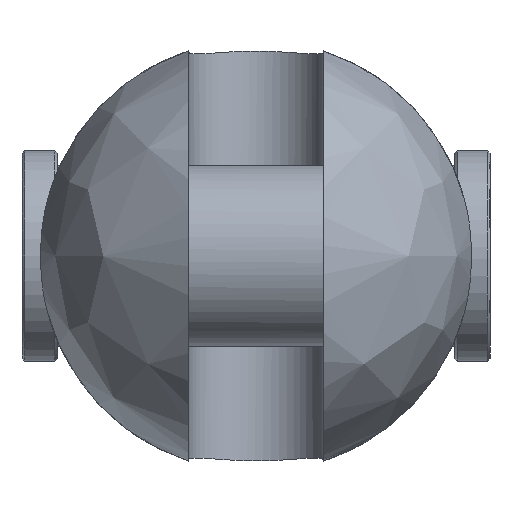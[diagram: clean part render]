
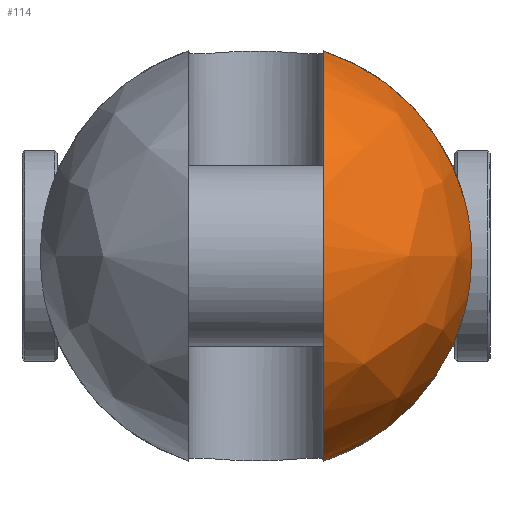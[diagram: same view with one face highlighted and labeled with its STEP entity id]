
A CAD part, left-side view. The second image highlights one B-rep face of the part: STEP entity #114.
In plain terms, the highlighted free-form (B-spline) face has degree [2, 2] with [9, 5] control points.
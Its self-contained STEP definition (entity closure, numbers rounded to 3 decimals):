
#114=ADVANCED_FACE('',(#202),#1535,.T.);
#202=FACE_OUTER_BOUND('',#302,.T.);
#302=EDGE_LOOP('',(#746,#747,#748,#749));
#746=ORIENTED_EDGE('',*,*,#1004,.T.);
#747=ORIENTED_EDGE('',*,*,#1001,.F.);
#748=ORIENTED_EDGE('',*,*,#1021,.T.);
#749=ORIENTED_EDGE('',*,*,#993,.F.);
#993=EDGE_CURVE('',#1425,#1426,#1256,.T.);
#1001=EDGE_CURVE('',#1433,#1434,#1257,.T.);
#1004=EDGE_CURVE('',#1425,#1434,#1259,.T.);
#1021=EDGE_CURVE('',#1433,#1426,#1130,.T.);
#1130=B_SPLINE_CURVE_WITH_KNOTS('',3,(#3620,#3621,#3622,#3623,#3624,#3625,
#3626,#3627,#3628,#3629,#3630,#3631,#3632,#3633),.UNSPECIFIED.,.F.,.F.,
(4,2,2,2,2,2,4),(0.,1.604,6.679,11.753,
16.828,21.902,23.506),.UNSPECIFIED.);
#1256=(
BOUNDED_CURVE()
B_SPLINE_CURVE(2,(#3470,#3471,#3472),.UNSPECIFIED.,.F.,.F.)
B_SPLINE_CURVE_WITH_KNOTS((3,3),(0.,42.595),.UNSPECIFIED.)
CURVE()
GEOMETRIC_REPRESENTATION_ITEM()
RATIONAL_B_SPLINE_CURVE((1.,0.88,1.))
REPRESENTATION_ITEM('')
);
#1257=(
BOUNDED_CURVE()
B_SPLINE_CURVE(2,(#3527,#3528,#3529),.UNSPECIFIED.,.F.,.F.)
B_SPLINE_CURVE_WITH_KNOTS((3,3),(0.,42.595),.UNSPECIFIED.)
CURVE()
GEOMETRIC_REPRESENTATION_ITEM()
RATIONAL_B_SPLINE_CURVE((1.,0.88,1.))
REPRESENTATION_ITEM('')
);
#1259=(
BOUNDED_CURVE()
B_SPLINE_CURVE(2,(#3535,#3536,#3537,#3538,#3539),.UNSPECIFIED.,.F.,.F.)
B_SPLINE_CURVE_WITH_KNOTS((3,2,3),(-128.258,-64.129,
0.),.UNSPECIFIED.)
CURVE()
GEOMETRIC_REPRESENTATION_ITEM()
RATIONAL_B_SPLINE_CURVE((1.,0.707,1.,0.707,1.))
REPRESENTATION_ITEM('')
);
#1425=VERTEX_POINT('',#3302);
#1426=VERTEX_POINT('',#3303);
#1433=VERTEX_POINT('',#3310);
#1434=VERTEX_POINT('',#3311);
#1535=(
BOUNDED_SURFACE()
B_SPLINE_SURFACE(2,2,((#3174,#3175,#3176,#3177,#3178),(#3179,#3180,#3181,
#3182,#3183),(#3184,#3185,#3186,#3187,#3188),(#3189,#3190,#3191,#3192,#3193),
(#3194,#3195,#3196,#3197,#3198),(#3199,#3200,#3201,#3202,#3203),(#3204,
#3205,#3206,#3207,#3208),(#3209,#3210,#3211,#3212,#3213),(#3214,#3215,#3216,
#3217,#3218)),.UNSPECIFIED.,.T.,.F.,.F.)
B_SPLINE_SURFACE_WITH_KNOTS((3,2,2,2,3),(3,2,3),(0.,67.544,135.088,
202.633,270.177),(0.,67.544,135.088),
 .UNSPECIFIED.)
GEOMETRIC_REPRESENTATION_ITEM()
RATIONAL_B_SPLINE_SURFACE(((1.,0.707,1.,0.707,1.),
(0.707,0.5,0.707,0.5,0.707),(1.,0.707,
1.,0.707,1.),(0.707,0.5,0.707,0.5,0.707),
(1.,0.707,1.,0.707,1.),(0.707,0.5,0.707,
0.5,0.707),(1.,0.707,1.,0.707,1.),(0.707,
0.5,0.707,0.5,0.707),(1.,0.707,1.,0.707,
1.)))
REPRESENTATION_ITEM('')
SURFACE()
);
#3174=CARTESIAN_POINT('',(-62.,0.,0.));
#3175=CARTESIAN_POINT('',(-62.,43.,0.));
#3176=CARTESIAN_POINT('',(-19.,43.,0.));
#3177=CARTESIAN_POINT('',(24.,43.,0.));
#3178=CARTESIAN_POINT('',(24.,0.,0.));
#3179=CARTESIAN_POINT('',(-62.,0.,0.));
#3180=CARTESIAN_POINT('',(-62.,43.,43.));
#3181=CARTESIAN_POINT('',(-19.,43.,43.));
#3182=CARTESIAN_POINT('',(24.,43.,43.));
#3183=CARTESIAN_POINT('',(24.,0.,0.));
#3184=CARTESIAN_POINT('',(-62.,0.,0.));
#3185=CARTESIAN_POINT('',(-62.,0.,43.));
#3186=CARTESIAN_POINT('',(-19.,0.,43.));
#3187=CARTESIAN_POINT('',(24.,0.,43.));
#3188=CARTESIAN_POINT('',(24.,0.,0.));
#3189=CARTESIAN_POINT('',(-62.,0.,0.));
#3190=CARTESIAN_POINT('',(-62.,-43.,43.));
#3191=CARTESIAN_POINT('',(-19.,-43.,43.));
#3192=CARTESIAN_POINT('',(24.,-43.,43.));
#3193=CARTESIAN_POINT('',(24.,0.,0.));
#3194=CARTESIAN_POINT('',(-62.,0.,0.));
#3195=CARTESIAN_POINT('',(-62.,-43.,0.));
#3196=CARTESIAN_POINT('',(-19.,-43.,0.));
#3197=CARTESIAN_POINT('',(24.,-43.,0.));
#3198=CARTESIAN_POINT('',(24.,0.,0.));
#3199=CARTESIAN_POINT('',(-62.,0.,0.));
#3200=CARTESIAN_POINT('',(-62.,-43.,-43.));
#3201=CARTESIAN_POINT('',(-19.,-43.,-43.));
#3202=CARTESIAN_POINT('',(24.,-43.,-43.));
#3203=CARTESIAN_POINT('',(24.,0.,0.));
#3204=CARTESIAN_POINT('',(-62.,0.,0.));
#3205=CARTESIAN_POINT('',(-62.,0.,-43.));
#3206=CARTESIAN_POINT('',(-19.,0.,-43.));
#3207=CARTESIAN_POINT('',(24.,0.,-43.));
#3208=CARTESIAN_POINT('',(24.,0.,0.));
#3209=CARTESIAN_POINT('',(-62.,0.,0.));
#3210=CARTESIAN_POINT('',(-62.,43.,-43.));
#3211=CARTESIAN_POINT('',(-19.,43.,-43.));
#3212=CARTESIAN_POINT('',(24.,43.,-43.));
#3213=CARTESIAN_POINT('',(24.,0.,0.));
#3214=CARTESIAN_POINT('',(-62.,0.,0.));
#3215=CARTESIAN_POINT('',(-62.,43.,0.));
#3216=CARTESIAN_POINT('',(-19.,43.,0.));
#3217=CARTESIAN_POINT('',(24.,43.,0.));
#3218=CARTESIAN_POINT('',(24.,0.,0.));
#3302=CARTESIAN_POINT('',(-19.,-13.5,40.826));
#3303=CARTESIAN_POINT('',(-19.,-41.545,11.091));
#3310=CARTESIAN_POINT('',(-19.,-41.545,-11.091));
#3311=CARTESIAN_POINT('',(-19.,-13.5,-40.826));
#3470=CARTESIAN_POINT('',(-19.,-13.5,40.826));
#3471=CARTESIAN_POINT('',(-19.,-35.554,33.533));
#3472=CARTESIAN_POINT('',(-19.,-41.545,11.091));
#3527=CARTESIAN_POINT('',(-19.,-41.545,-11.091));
#3528=CARTESIAN_POINT('',(-19.,-35.554,-33.533));
#3529=CARTESIAN_POINT('',(-19.,-13.5,-40.826));
#3535=CARTESIAN_POINT('',(-19.,-13.5,40.826));
#3536=CARTESIAN_POINT('',(-59.826,-13.5,40.826));
#3537=CARTESIAN_POINT('',(-59.826,-13.5,0.));
#3538=CARTESIAN_POINT('',(-59.826,-13.5,-40.826));
#3539=CARTESIAN_POINT('',(-19.,-13.5,-40.826));
#3620=CARTESIAN_POINT('',(-19.,-41.545,-11.091));
#3621=CARTESIAN_POINT('',(-19.266,-41.667,-10.635));
#3622=CARTESIAN_POINT('',(-19.516,-41.781,-10.169));
#3623=CARTESIAN_POINT('',(-20.488,-42.221,-8.189));
#3624=CARTESIAN_POINT('',(-21.058,-42.476,-6.586));
#3625=CARTESIAN_POINT('',(-21.815,-42.813,-3.31));
#3626=CARTESIAN_POINT('',(-22.,-42.895,-1.636));
#3627=CARTESIAN_POINT('',(-22.,-42.895,1.636));
#3628=CARTESIAN_POINT('',(-21.815,-42.813,3.31));
#3629=CARTESIAN_POINT('',(-21.058,-42.476,6.586));
#3630=CARTESIAN_POINT('',(-20.488,-42.221,8.189));
#3631=CARTESIAN_POINT('',(-19.516,-41.781,10.169));
#3632=CARTESIAN_POINT('',(-19.266,-41.667,10.635));
#3633=CARTESIAN_POINT('',(-19.,-41.545,11.091));
